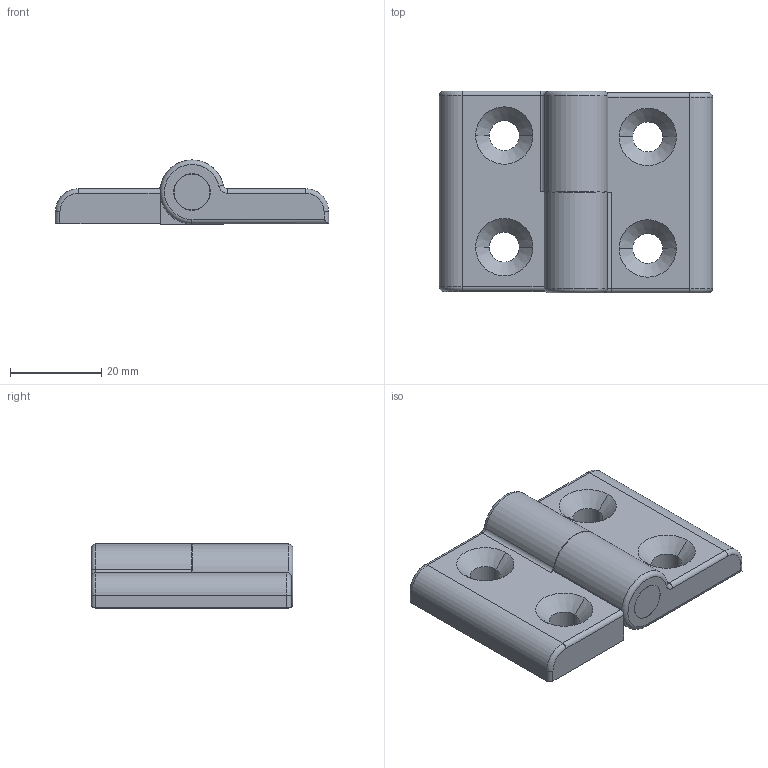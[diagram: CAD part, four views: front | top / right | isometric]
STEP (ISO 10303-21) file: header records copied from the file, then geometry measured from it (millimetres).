
FILE_DESCRIPTION (( 'STEP AP214' ), '1' );
FILE_NAME ('260.STEP', '2015-12-04T01:28:46', ( '' ), ( '' ), 'SwSTEP 2.0', 'SolidWorks 2010', '' );
FILE_SCHEMA (( 'AUTOMOTIVE_DESIGN' ));
Length unit declared in the file: millimetre
Products named in the file (3): 260; pt; pt2
Assembly tree (2 placements, depth 2):
  260
    pt
    pt2
Bounding box: 60 x 44.3 x 14.07 mm (x, y, z)
Volume: 18503.6 mm3; surface area: 10952.6 mm2
Topology: 3 solids, 3 shells, 90 faces, 208 edges, 130 vertices
Faces by surface type: cylinder 38, plane 34, cone 10, torus 8
Entity records: 3693 total; most frequent: DIRECTION 492, CARTESIAN_POINT 439, ORIENTED_EDGE 416, EDGE_CURVE 208, AXIS2_PLACEMENT_3D 191, VERTEX_POINT 130, LINE 110, VECTOR 110
